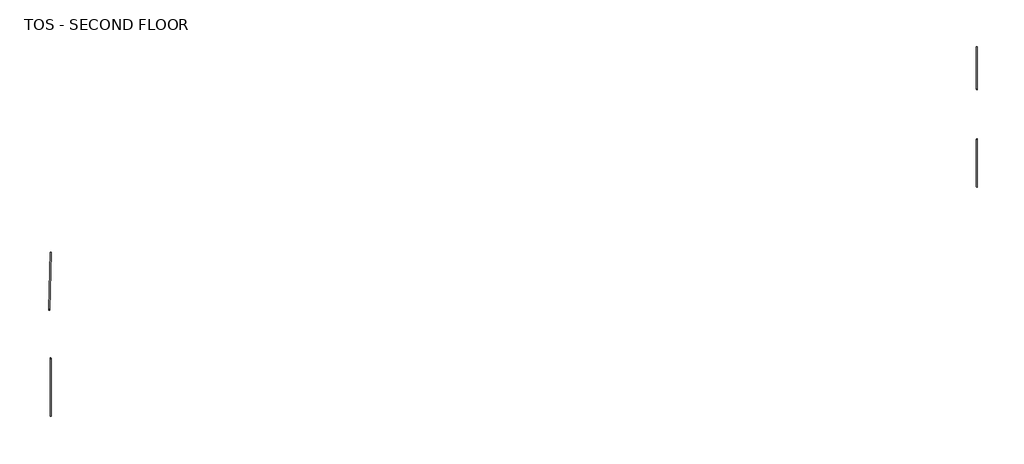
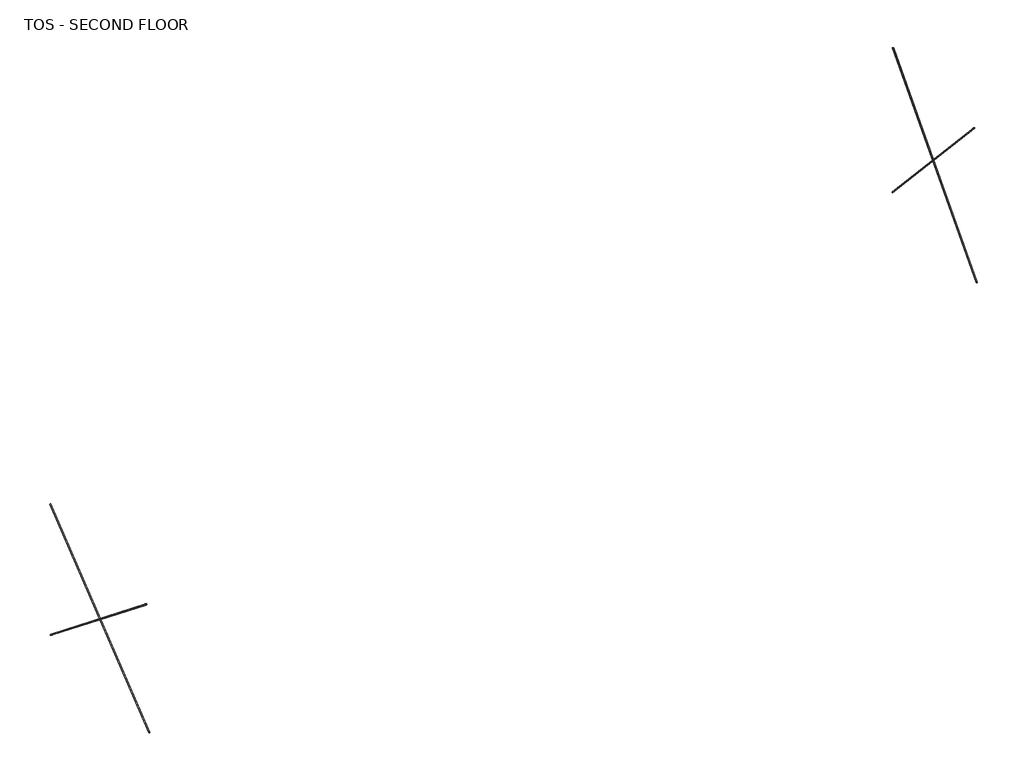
# One storey: 4 members.
"""IFC4 building model written with IfcOpenShell, lengths in millimetres."""

import ifcopenshell
import ifcopenshell.guid

model = None  # the IFC model being written
_history = None  # IfcOwnerHistory: only IFC2X3 demands one
_inside = {}  # id of a spatial element -> (the spatial element, [elements in it])
_under = {}  # id of a project, library or spatial element -> (it, [spatial elements below it])
_declared = {}  # id of a project -> (the project, [libraries it declares])
_typed = {}  # id of a type object -> (the type object, [elements of that type])
_made_of = {}  # id of a material, layer set ... -> (it, [elements and type objects made of it])


def new_model(schema):
    """Start an empty IFC model of exactly this schema.

    Asked for "IFC4X3", IfcOpenShell would pick the latest addendum, in which some entities
    have other attributes; the version numbers below select the first issue.
    IFC2X3 requires an IfcOwnerHistory on every rooted entity: one is made here for all.
    """
    global model, _history
    if schema == "IFC4X3":
        model = ifcopenshell.file(schema_version=(4, 3, 0, 0))
    else:
        model = ifcopenshell.file(schema=schema)
    _inside.clear()
    _under.clear()
    _declared.clear()
    _typed.clear()
    _made_of.clear()
    _history = None
    if model.schema == "IFC2X3":
        org = make("IfcOrganization", Name="unknown")
        user = make(
            "IfcPersonAndOrganization",
            ThePerson=make("IfcPerson", FamilyName="unknown"),
            TheOrganization=org,
        )
        app = make(
            "IfcApplication",
            ApplicationDeveloper=org,
            Version="unknown",
            ApplicationFullName="unknown",
            ApplicationIdentifier="unknown",
        )
        _history = make(
            "IfcOwnerHistory",
            OwningUser=user,
            OwningApplication=app,
            ChangeAction="ADDED",
            CreationDate=0,
        )
    return model


def make(cls, **values):
    """One entity of the class cls with the attributes given. An attribute that is None is left unset."""
    return model.create_entity(
        cls, **{name: value for name, value in values.items() if value is not None}
    )


def rooted(cls, **values):
    """An entity with a GlobalId (a new one), such as an element, a storey or a relation."""
    return make(cls, GlobalId=ifcopenshell.guid.new(), OwnerHistory=_history, **values)


def si_unit(unit_type, name, prefix=None):
    """IfcSIUnit, for example si_unit("LENGTHUNIT", "METRE", prefix="MILLI")."""
    return make("IfcSIUnit", UnitType=unit_type, Prefix=prefix, Name=name)


def assignment(units):
    """IfcUnitAssignment: the units of a project."""
    return None if units is None else make("IfcUnitAssignment", Units=units)


def point(xyz):
    """IfcCartesianPoint."""
    return None if xyz is None else make("IfcCartesianPoint", Coordinates=xyz)


def direction(xyz):
    """IfcDirection."""
    return None if xyz is None else make("IfcDirection", DirectionRatios=xyz)


def frame(location, z_axis=None, x_axis=None):
    """IfcAxis2Placement3D, a coordinate frame: its origin and axes. An axis left out is left unset."""
    return make(
        "IfcAxis2Placement3D",
        Location=point(location),
        Axis=direction(z_axis),
        RefDirection=direction(x_axis),
    )


def frame_2d(location, x_axis=None):
    """IfcAxis2Placement2D, a coordinate frame in the plane: its origin and x axis."""
    return make(
        "IfcAxis2Placement2D", Location=point(location), RefDirection=direction(x_axis)
    )


def origin():
    """The frame at (0, 0, 0) with its axes left unset."""
    return frame((0.0, 0.0, 0.0))


def origin_2d():
    """The frame at (0, 0) in the plane with its x axis left unset."""
    return frame_2d((0.0, 0.0))


def place(relative_to, where):
    """IfcLocalPlacement: puts the frame where relative to a parent placement (None: the world)."""
    return make(
        "IfcLocalPlacement", PlacementRelTo=relative_to, RelativePlacement=where
    )


def context(
    kind, dimensions, precision=None, world=None, true_north=None, identifier=None
):
    """IfcGeometricRepresentationContext, for example the 3D "Model" context."""
    return make(
        "IfcGeometricRepresentationContext",
        ContextIdentifier=identifier,
        ContextType=kind,
        CoordinateSpaceDimension=dimensions,
        Precision=precision,
        WorldCoordinateSystem=world,
        TrueNorth=true_north,
    )


def project(units=None, contexts=None):
    """IfcProject with its units and contexts."""
    return rooted(
        "IfcProject",
        Name="project",
        RepresentationContexts=contexts,
        UnitsInContext=assignment(units),
    )


def spatial(cls, under=None, at=None, **own):
    """A site, building, storey or space (cls), placed at a placement, below another one or the project."""
    s = rooted(cls, ObjectPlacement=at, **own)
    if under is not None:
        _under.setdefault(under.id(), (under, []))[1].append(s)
    return s


def circle_curve(where, radius):
    """IfcCircle in the frame where."""
    return make("IfcCircle", Position=where, Radius=radius)


def trimmed(basis, trim1, trim2, sense, master):
    """IfcTrimmedCurve: the piece of a basis curve between two trims."""
    return make(
        "IfcTrimmedCurve",
        BasisCurve=basis,
        Trim1=trim1,
        Trim2=trim2,
        SenseAgreement=sense,
        MasterRepresentation=master,
    )


def segment(curve, same_sense, transition):
    """IfcCompositeCurveSegment."""
    return make(
        "IfcCompositeCurveSegment",
        Transition=transition,
        SameSense=same_sense,
        ParentCurve=curve,
    )


def composite_curve(segments, self_intersect=None):
    """IfcCompositeCurve: segments joined end to end."""
    return make("IfcCompositeCurve", Segments=segments, SelfIntersect=self_intersect)


def outline(outer, holes=None, kind="AREA"):
    """IfcArbitraryClosedProfileDef: a profile drawn as a closed curve; with holes, ...WithVoids."""
    if holes is None:
        return make("IfcArbitraryClosedProfileDef", ProfileType=kind, OuterCurve=outer)
    return make(
        "IfcArbitraryProfileDefWithVoids",
        ProfileType=kind,
        OuterCurve=outer,
        InnerCurves=holes,
    )


def extrude(swept, where, along, depth):
    """IfcExtrudedAreaSolid: the profile swept, set in the frame where, extruded along a direction by depth."""
    return make(
        "IfcExtrudedAreaSolid",
        SweptArea=swept,
        Position=where,
        ExtrudedDirection=direction(along),
        Depth=depth,
    )


def shape(context_of_items, identifier, shape_type, items):
    """IfcShapeRepresentation: the items that make up one representation, for example the "Body"."""
    return make(
        "IfcShapeRepresentation",
        ContextOfItems=context_of_items,
        RepresentationIdentifier=identifier,
        RepresentationType=shape_type,
        Items=items,
    )


def source(mapping_origin, context_of_items, identifier, shape_type, items):
    """IfcRepresentationMap: a shape defined once, which mapped items show again and again."""
    return make(
        "IfcRepresentationMap",
        MappingOrigin=mapping_origin,
        MappedRepresentation=shape(context_of_items, identifier, shape_type, items),
    )


def transform(
    local_origin,
    x_axis=None,
    y_axis=None,
    z_axis=None,
    scale=None,
    scale2=None,
    scale3=None,
    uniform=True,
):
    """IfcCartesianTransformationOperator3D, or its non-uniform kind. x_axis, y_axis, z_axis: its Axis1, 2, 3."""
    if uniform:
        return make(
            "IfcCartesianTransformationOperator3D",
            Axis1=direction(x_axis),
            Axis2=direction(y_axis),
            LocalOrigin=point(local_origin),
            Scale=scale,
            Axis3=direction(z_axis),
        )
    return make(
        "IfcCartesianTransformationOperator3DnonUniform",
        Axis1=direction(x_axis),
        Axis2=direction(y_axis),
        LocalOrigin=point(local_origin),
        Scale=scale,
        Axis3=direction(z_axis),
        Scale2=scale2,
        Scale3=scale3,
    )


def mapped(mapping_source, mapping_target):
    """IfcMappedItem: shows the shape of a source again, moved by a transform."""
    return make(
        "IfcMappedItem", MappingSource=mapping_source, MappingTarget=mapping_target
    )


def made_of(thing, what):
    """Note that an element or type object is made of a material, layer set ...; save() writes the relation."""
    if what is not None:
        _made_of.setdefault(what.id(), (what, []))[1].append(thing)
    return thing


def element(
    cls,
    number,
    at=None,
    inside=None,
    cuts=None,
    type_object=None,
    material=None,
    context=None,
    identifier="Body",
    shape_type=None,
    held_by="IfcProductDefinitionShape",
    body=None,
    shapes=None,
    **own,
):
    """One element of the class cls, such as IfcWall. Its Tag is "e" and its number.

    at: its placement. inside: the storey or other place that contains it. cuts: it is an
    opening in that element (IfcRelVoidsElement). A single representation is given by context,
    identifier, shape_type and body (its items); several are given by shapes. held_by: the class
    of the entity that holds the representations. save() writes the other relations.
    """
    e = rooted(cls, Tag="e%d" % number, ObjectPlacement=at, **own)
    if body is not None:
        shapes = [shape(context, identifier, shape_type, body)]
    if shapes is not None:
        e.Representation = make(held_by, Representations=shapes)
    if inside is not None:
        _inside.setdefault(inside.id(), (inside, []))[1].append(e)
    if cuts is not None:
        rooted(
            "IfcRelVoidsElement", RelatingBuildingElement=cuts, RelatedOpeningElement=e
        )
    if type_object is not None:
        _typed.setdefault(type_object.id(), (type_object, []))[1].append(e)
    return made_of(e, material)


def aggregate(whole, parts):
    """IfcRelAggregates: a whole, such as a stair, and the parts it consists of."""
    return rooted("IfcRelAggregates", RelatingObject=whole, RelatedObjects=parts)


def save(model, path):
    """Write the relations noted so far, then the file.

    IfcRelAggregates (storeys below a building ...), IfcRelContainedInSpatialStructure (elements
    in a storey), IfcRelDefinesByType, IfcRelAssociatesMaterial and IfcRelDeclares: one each for
    every whole, place, type object, material and project.
    """
    for whole, parts in _under.values():
        aggregate(whole, parts)
    for where, things in _inside.values():
        rooted(
            "IfcRelContainedInSpatialStructure",
            RelatedElements=things,
            RelatingStructure=where,
        )
    for kind, things in _typed.values():
        rooted("IfcRelDefinesByType", RelatedObjects=things, RelatingType=kind)
    for what, things in _made_of.values():
        rooted("IfcRelAssociatesMaterial", RelatedObjects=things, RelatingMaterial=what)
    for by, libraries in _declared.values():
        rooted("IfcRelDeclares", RelatingContext=by, RelatedDefinitions=libraries)
    model.write(path)


def member_7c849a12(model_context):
    return source(origin(), model_context, "Body", "SweptSolid", [
        extrude(outline(composite_curve([segment(trimmed(circle_curve(origin_2d(), 12.7), [point((-12.7, 0.0))], [point((12.7, 0.0))], False, "CARTESIAN"), True, "CONTINUOUS"), segment(trimmed(circle_curve(origin_2d(), 12.7), [point((12.7, 0.0))], [point((-12.7, 0.0))], False, "CARTESIAN"), True, "CONTINUOUS")], self_intersect=False)), frame((-2760.4770887, 0.0, 0.0), z_axis=(1.0, 0.0, 0.0), x_axis=(0.0, 1.0, 0.0)), (0.0, 0.0, 1.0), 5352.3844213),
    ])


def member_83d75e4f(model_context):
    return source(origin(), model_context, "Body", "SweptSolid", [
        extrude(outline(composite_curve([segment(trimmed(circle_curve(origin_2d(), 12.7), [point((-12.7, 0.0))], [point((12.7, 0.0))], False, "CARTESIAN"), True, "CONTINUOUS"), segment(trimmed(circle_curve(origin_2d(), 12.7), [point((12.7, 0.0))], [point((-12.7, 0.0))], False, "CARTESIAN"), True, "CONTINUOUS")], self_intersect=False)), frame((-2596.3536233, 0.0, 0.0), z_axis=(1.0, 0.0, 0.0), x_axis=(0.0, 1.0, 0.0)), (0.0, 0.0, 1.0), 5160.6230539),
    ])


def member_3cfdfb2d(model_context):
    return source(origin(), model_context, "Body", "SweptSolid", [
        extrude(outline(composite_curve([segment(trimmed(circle_curve(origin_2d(), 12.7), [point((-12.7, 0.0))], [point((12.7, 0.0))], False, "CARTESIAN"), True, "CONTINUOUS"), segment(trimmed(circle_curve(origin_2d(), 12.7), [point((12.7, 0.0))], [point((-12.7, 0.0))], False, "CARTESIAN"), True, "CONTINUOUS")], self_intersect=False)), frame((-2701.2514011, 0.0, 0.0), z_axis=(1.0, 0.0, 0.0), x_axis=(0.0, 1.0, 0.0)), (0.0, 0.0, 1.0), 5443.1915202),
    ])


def member_e14d502c(model_context):
    return source(origin(), model_context, "Body", "SweptSolid", [
        extrude(outline(composite_curve([segment(trimmed(circle_curve(origin_2d(), 12.7), [point((-12.7, 0.0))], [point((12.7, 0.0))], False, "CARTESIAN"), True, "CONTINUOUS"), segment(trimmed(circle_curve(origin_2d(), 12.7), [point((12.7, 0.0))], [point((-12.7, 0.0))], False, "CARTESIAN"), True, "CONTINUOUS")], self_intersect=False)), frame((-2701.2513798, 0.0, 0.0), z_axis=(1.0, 0.0, 0.0), x_axis=(0.0, 1.0, 0.0)), (0.0, 0.0, 1.0), 5442.8145905),
    ])


model = new_model("IFC4")

# Units and contexts
model_context = context("Model", 3, world=origin())
ifc_project = project(units=[si_unit("LENGTHUNIT", "METRE", prefix="MILLI")], contexts=[model_context])

# Site, building, storey
site = spatial("IfcSite", under=ifc_project)
building = spatial("IfcBuilding", under=site)
storey = spatial("IfcBuildingStorey", under=building, Name="TOS - SECOND FLOOR", Elevation=34378.9)

# Members
placement = place(None, origin())
member_shape = member_7c849a12(model_context)
element("IfcMember", 1, ObjectType="Round Bar : 1\"", at=placement, inside=storey, context=model_context, shape_type="MappedRepresentation", body=[
    mapped(member_shape, transform((13567.7295393, 5974.7570005, 36273.105), x_axis=(0.0, 0.6703732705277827, 0.7420240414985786), y_axis=(-1.0000000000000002, 0.0, 0.0), z_axis=(0.0, -0.7420240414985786, 0.6703732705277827))),
])
member_2_shape = member_83d75e4f(model_context)
element("IfcMember", 2, ObjectType="Round Bar : 1\"", at=placement, inside=storey, context=model_context, shape_type="MappedRepresentation", body=[
    mapped(member_2_shape, transform((13567.7295393, 5974.7570005, 36308.411), x_axis=(0.0, -0.6767091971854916, 0.736250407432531), y_axis=(1.0000000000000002, 0.0, 0.0), z_axis=(0.0, 0.736250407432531, 0.6767091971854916))),
])
member_3_shape = member_3cfdfb2d(model_context)
element("IfcMember", 3, ObjectType="Round Bar : 1\"", at=placement, inside=storey, context=model_context, shape_type="MappedRepresentation", body=[
    mapped(member_3_shape, transform((-10327.3204607, 323.2570005, 36086.161), x_axis=(0.0, 0.7802907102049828, 0.6254169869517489), y_axis=(-1.0000000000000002, 0.0, 0.0), z_axis=(0.0, -0.6254169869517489, 0.7802907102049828))),
])
member_4_shape = member_e14d502c(model_context)
element("IfcMember", 4, ObjectType="Round Bar : 1\"", at=placement, inside=storey, context=model_context, shape_type="MappedRepresentation", body=[
    mapped(member_4_shape, transform((-10375.5045038, 323.7709636, 36086.161), x_axis=(-0.016643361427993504, -0.7801131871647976, 0.6254169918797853), y_axis=(0.9997724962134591, -0.021329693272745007, 0.0), z_axis=(0.013339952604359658, 0.6252747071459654, 0.7802907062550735))),
])

save(model, "model.ifc")
